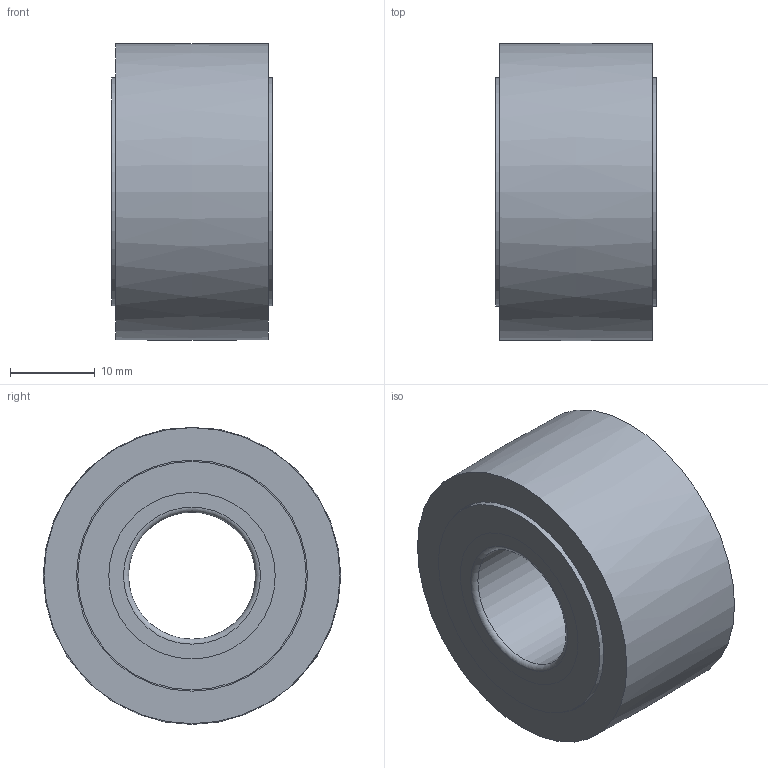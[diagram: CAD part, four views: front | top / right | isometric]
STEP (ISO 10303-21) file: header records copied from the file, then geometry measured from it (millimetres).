
FILE_DESCRIPTION(/* description */ (''),/* implementation_level */ '2;1');
FILE_NAME(/* name */ 'C:\Users\OUREHANEKD\NATV\NATV--\NATV15.stp',/* time_stamp */ '2018-06-05T13:11:29+02:00',/* author */ ('OUREHANEKD'),/* organization */ (''),/* preprocessor_version */ 'ST-DEVELOPER v16.13',/* originating_system */ 'Autodesk Inventor 2018',/* authorisation */ '');
FILE_SCHEMA (('AUTOMOTIVE_DESIGN { 1 0 10303 214 3 1 1 }'));
Length unit declared in the file: millimetre
Products named in the file (5): NATV15; NATV15-01; NATV15-needle; NATV15-shield; NATV15-02
Assembly tree (43 placements, depth 2):
  NATV15
    NATV15-01
    NATV15-needle  x40
    NATV15-shield
    NATV15-02
Bounding box: 19 x 35.16 x 35.08 mm (x, y, z)
Volume: 13847.9 mm3; surface area: 10966.9 mm2
Topology: 44 solids, 44 shells, 146 faces, 162 edges, 108 vertices
Faces by surface type: plane 92, cylinder 51, torus 2, bspline 1
Full cylindrical faces by diameter (mm): 1.296 x40, 15 x1, 19.68 x4, 21.48 x1, 24.072 x1, 27 x2, 27.3 x2
Entity records: 1126 total; most frequent: DIRECTION 212, CARTESIAN_POINT 166, AXIS2_PLACEMENT_3D 106, ORIENTED_EDGE 62, EDGE_LOOP 55, PRODUCT_DEFINITION_SHAPE 48, ITEM_DEFINED_TRANSFORMATION 43, CONTEXT_DEPENDENT_SHAPE_REPRESENTATION 43
